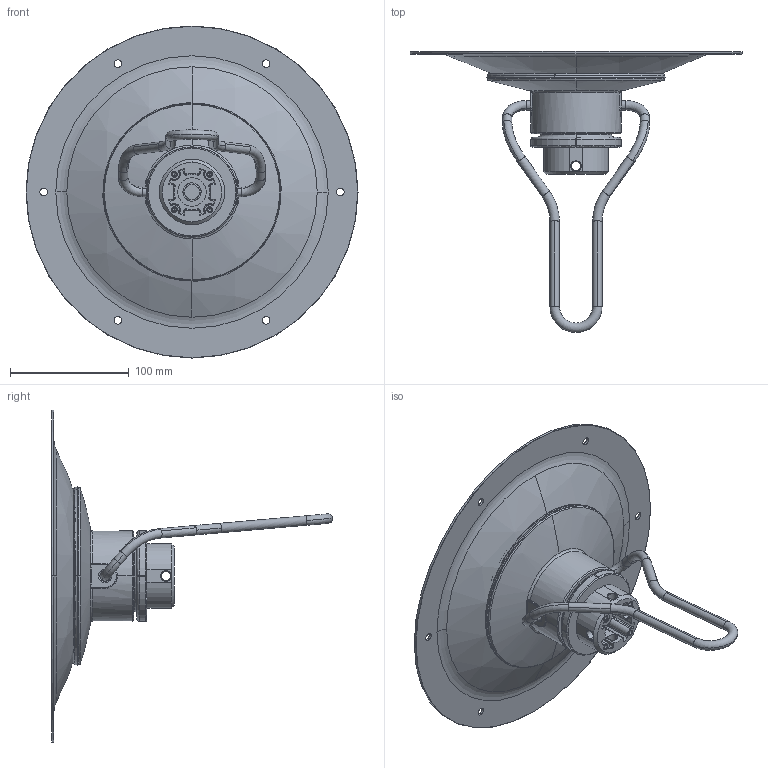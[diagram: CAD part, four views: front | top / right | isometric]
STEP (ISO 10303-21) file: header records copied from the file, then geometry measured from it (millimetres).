
FILE_DESCRIPTION (( 'STEP AP214' ), '1' );
FILE_NAME ('B135-LVN-W公開.STEP', '2022-05-23T03:12:20', ( '' ), ( '' ), 'SwSTEP 2.0', 'SolidWorks 2019', '' );
FILE_SCHEMA (( 'AUTOMOTIVE_DESIGN' ));
Length unit declared in the file: millimetre
Products named in the file (13): ShaftBaseN; LockNut_W; SwingLever; UpperPlate; ばね座金M8; 平座金M8x24; 六角ボルトM8x20; M30Bolt; B135-LVN-W公開; Sim; SimCover; LockNutCover; TablePlate_SUS
Assembly tree (12 placements, depth 2):
  B135-LVN-W公開
    ShaftBaseN
    M30Bolt
    平座金M8x24
    ばね座金M8
    六角ボルトM8x20
    LockNut_W
    UpperPlate
    SimCover
    Sim
    TablePlate_SUS
    LockNutCover
    SwingLever
Bounding box: 280 x 236.88 x 280 mm (x, y, z)
Volume: 535964.8 mm3; surface area: 362225.1 mm2
Topology: 12 solids, 12 shells, 885 faces, 2231 edges, 1330 vertices
Faces by surface type: cylinder 365, torus 168, plane 160, cone 79, sphere 67, bspline 46
Entity records: 35247 total; most frequent: CARTESIAN_POINT 13799, DIRECTION 4724, ORIENTED_EDGE 4342, EDGE_CURVE 2171, AXIS2_PLACEMENT_3D 2003, VERTEX_POINT 1328, CIRCLE 1149, EDGE_LOOP 939
